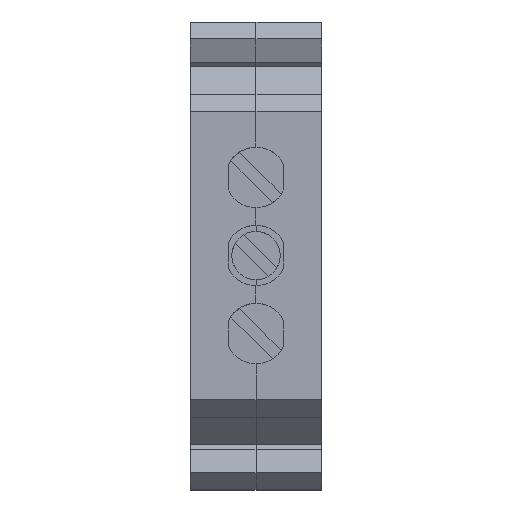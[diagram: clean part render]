
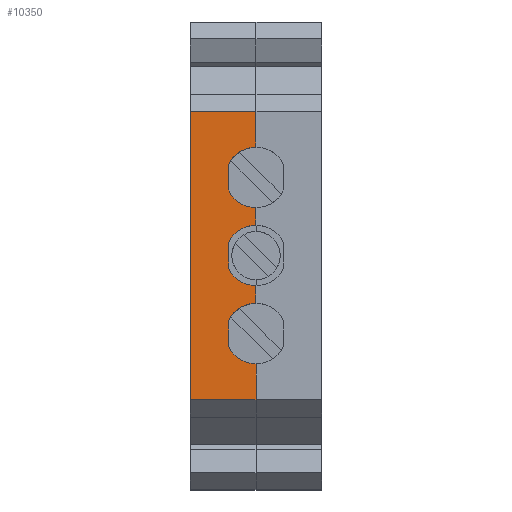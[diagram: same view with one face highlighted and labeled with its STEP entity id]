
A CAD part, top view. The second image highlights one B-rep face of the part: STEP entity #10350.
In plain terms, the highlighted planar face has unit normal (0, 0, 1) as drawn and (0, 1, 0) by its records, which use the part's own axes.
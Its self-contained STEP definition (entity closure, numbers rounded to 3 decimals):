
#6040=CARTESIAN_POINT('',(-17.829,38.468,0.));
#6050=VERTEX_POINT('',#6040);
#9080=CARTESIAN_POINT('',(-4.729,38.468,0.));
#9090=DIRECTION('',(0.,-1.,0.));
#9100=DIRECTION('',(1.,0.,0.));
#9110=AXIS2_PLACEMENT_3D('',#9080,#9090,#9100);
#9120=PLANE('',#9110);
#9130=CARTESIAN_POINT('',(0.,38.468,6.));
#9140=DIRECTION('',(1.,0.,0.));
#9150=VECTOR('',#9140,1.);
#9160=LINE('',#9130,#9150);
#9170=CARTESIAN_POINT('',(-17.829,38.468,6.));
#9180=VERTEX_POINT('',#9170);
#9190=CARTESIAN_POINT('',(8.371,38.468,6.));
#9200=VERTEX_POINT('',#9190);
#9210=EDGE_CURVE('',#9180,#9200,#9160,.T.);
#9220=ORIENTED_EDGE('',*,*,#9210,.T.);
#9230=CARTESIAN_POINT('',(-17.829,38.468,0.));
#9240=DIRECTION('',(0.,0.,-1.));
#9250=VECTOR('',#9240,1.);
#9260=LINE('',#9230,#9250);
#9270=EDGE_CURVE('',#9180,#6050,#9260,.T.);
#9280=ORIENTED_EDGE('',*,*,#9270,.F.);
#9290=CARTESIAN_POINT('',(0.,38.468,0.));
#9300=DIRECTION('',(-1.,0.,0.));
#9310=VECTOR('',#9300,1.);
#9320=LINE('',#9290,#9310);
#9330=CARTESIAN_POINT('',(-14.579,38.468,
0.));
#9340=VERTEX_POINT('',#9330);
#9350=EDGE_CURVE('',#9340,#6050,#9320,.T.);
#9360=ORIENTED_EDGE('',*,*,#9350,.T.);
#9370=CARTESIAN_POINT('',(-11.829,38.468,
0.));
#9380=DIRECTION('',(0.,-1.,0.));
#9390=DIRECTION('',(1.,0.,0.));
#9400=AXIS2_PLACEMENT_3D('',#9370,#9380,#9390);
#9410=CIRCLE('',#9400,2.75);
#9420=CARTESIAN_POINT('',(-12.975,38.468,2.5))
;
#9430=VERTEX_POINT('',#9420);
#9440=EDGE_CURVE('',#9430,#9340,#9410,.T.);
#9450=ORIENTED_EDGE('',*,*,#9440,.T.);
#9460=CARTESIAN_POINT('',(0.,38.468,2.5));
#9470=DIRECTION('',(1.,0.,0.));
#9480=VECTOR('',#9470,1.);
#9490=LINE('',#9460,#9480);
#9500=CARTESIAN_POINT('',(-10.684,38.468,2.5))
;
#9510=VERTEX_POINT('',#9500);
#9520=EDGE_CURVE('',#9430,#9510,#9490,.T.);
#9530=ORIENTED_EDGE('',*,*,#9520,.F.);
#9540=CARTESIAN_POINT('',(-11.829,38.468,
0.));
#9550=DIRECTION('',(0.,-1.,0.));
#9560=DIRECTION('',(1.,0.,0.));
#9570=AXIS2_PLACEMENT_3D('',#9540,#9550,#9560);
#9580=CIRCLE('',#9570,2.75);
#9590=CARTESIAN_POINT('',(-9.079,38.468,
0.));
#9600=VERTEX_POINT('',#9590);
#9610=EDGE_CURVE('',#9600,#9510,#9580,.T.);
#9620=ORIENTED_EDGE('',*,*,#9610,.T.);
#9630=CARTESIAN_POINT('',(-7.479,38.468,
0.));
#9640=VERTEX_POINT('',#9630);
#9650=EDGE_CURVE('',#9640,#9600,#9320,.T.);
#9660=ORIENTED_EDGE('',*,*,#9650,.T.);
#9670=CARTESIAN_POINT('',(-4.729,38.468,
0.));
#9680=DIRECTION('',(0.,-1.,0.));
#9690=DIRECTION('',(1.,0.,0.));
#9700=AXIS2_PLACEMENT_3D('',#9670,#9680,#9690);
#9710=CIRCLE('',#9700,2.75);
#9720=CARTESIAN_POINT('',(-5.875,38.468,2.5))
;
#9730=VERTEX_POINT('',#9720);
#9740=EDGE_CURVE('',#9730,#9640,#9710,.T.);
#9750=ORIENTED_EDGE('',*,*,#9740,.T.);
#9760=CARTESIAN_POINT('',(0.,38.468,2.5));
#9770=DIRECTION('',(1.,0.,0.));
#9780=VECTOR('',#9770,1.);
#9790=LINE('',#9760,#9780);
#9800=CARTESIAN_POINT('',(-3.584,38.468,2.5))
;
#9810=VERTEX_POINT('',#9800);
#9820=EDGE_CURVE('',#9730,#9810,#9790,.T.);
#9830=ORIENTED_EDGE('',*,*,#9820,.F.);
#9840=CARTESIAN_POINT('',(-4.729,38.468,
0.));
#9850=DIRECTION('',(0.,1.,0.));
#9860=DIRECTION('',(-1.,0.,0.));
#9870=AXIS2_PLACEMENT_3D('',#9840,#9850,#9860);
#9880=CIRCLE('',#9870,2.75);
#9890=CARTESIAN_POINT('',(-1.979,38.468,
0.));
#9900=VERTEX_POINT('',#9890);
#9910=EDGE_CURVE('',#9810,#9900,#9880,.T.);
#9920=ORIENTED_EDGE('',*,*,#9910,.F.);
#9930=CARTESIAN_POINT('',(-0.379,38.468,
0.));
#9940=VERTEX_POINT('',#9930);
#9950=EDGE_CURVE('',#9940,#9900,#9320,.T.);
#9960=ORIENTED_EDGE('',*,*,#9950,.T.);
#9970=CARTESIAN_POINT('',(2.371,38.468,0.
));
#9980=DIRECTION('',(0.,1.,0.));
#9990=DIRECTION('',(-1.,0.,0.));
#10000=AXIS2_PLACEMENT_3D('',#9970,#9980,#9990);
#10010=CIRCLE('',#10000,2.75);
#10020=CARTESIAN_POINT('',(1.225,38.468,2.5))
;
#10030=VERTEX_POINT('',#10020);
#10040=EDGE_CURVE('',#9940,#10030,#10010,.T.);
#10050=ORIENTED_EDGE('',*,*,#10040,.F.);
#10060=CARTESIAN_POINT('',(0.,38.468,2.5));
#10070=DIRECTION('',(1.,0.,0.));
#10080=VECTOR('',#10070,1.);
#10090=LINE('',#10060,#10080);
#10100=CARTESIAN_POINT('',(3.516,38.468,2.5))
;
#10110=VERTEX_POINT('',#10100);
#10120=EDGE_CURVE('',#10030,#10110,#10090,.T.);
#10130=ORIENTED_EDGE('',*,*,#10120,.F.);
#10140=CARTESIAN_POINT('',(2.371,38.468,
0.));
#10150=DIRECTION('',(0.,-1.,0.));
#10160=DIRECTION('',(-1.,0.,0.));
#10170=AXIS2_PLACEMENT_3D('',#10140,#10150,#10160);
#10180=CIRCLE('',#10170,2.75);
#10190=CARTESIAN_POINT('',(5.121,38.468,
0.));
#10200=VERTEX_POINT('',#10190);
#10210=EDGE_CURVE('',#10200,#10110,#10180,.T.);
#10220=ORIENTED_EDGE('',*,*,#10210,.T.);
#10230=CARTESIAN_POINT('',(8.371,38.468,0.));
#10240=VERTEX_POINT('',#10230);
#10250=EDGE_CURVE('',#10240,#10200,#9320,.T.);
#10260=ORIENTED_EDGE('',*,*,#10250,.T.);
#10270=CARTESIAN_POINT('',(8.371,38.468,0.));
#10280=DIRECTION('',(0.,0.,-1.));
#10290=VECTOR('',#10280,1.);
#10300=LINE('',#10270,#10290);
#10310=EDGE_CURVE('',#9200,#10240,#10300,.T.);
#10320=ORIENTED_EDGE('',*,*,#10310,.T.);
#10330=EDGE_LOOP('',(#10320,#10260,#10220,#10130,#10050,#9960,#9920,
#9830,#9750,#9660,#9620,#9530,#9450,#9360,#9280,#9220));
#10340=FACE_OUTER_BOUND('',#10330,.T.);
#10350=ADVANCED_FACE('',(#10340),#9120,.F.);
